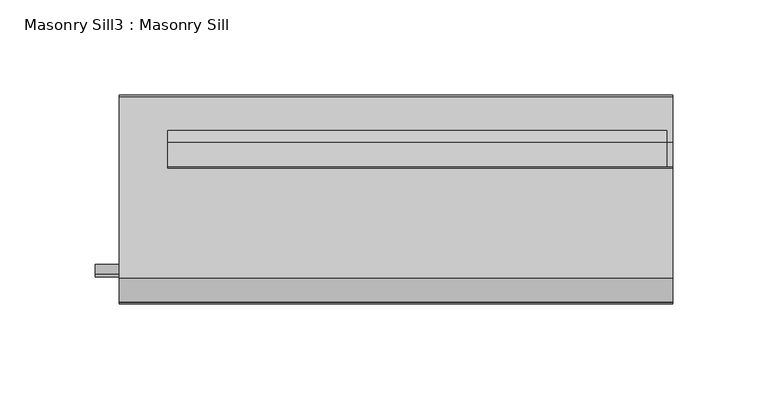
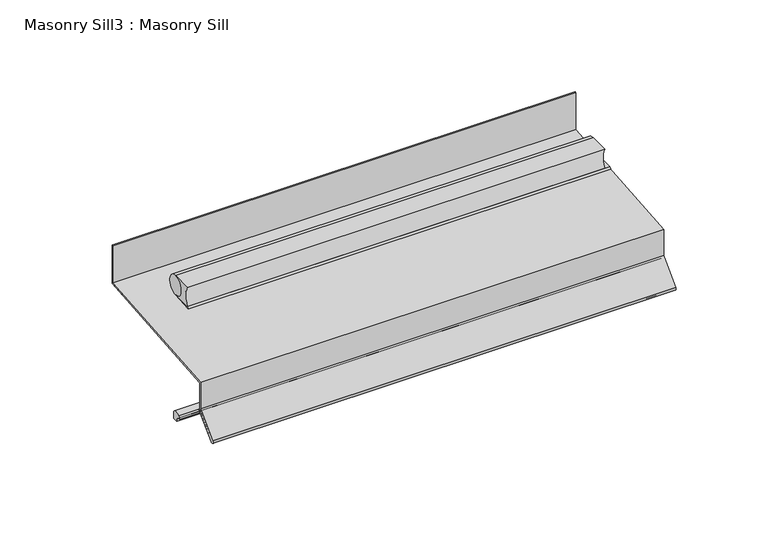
"""IFC4 building model written with IfcOpenShell, lengths in millimetres: proxy geometry, Masonry Sill3 : Masonry Sill."""

from ifc_helpers import new_model, si_unit, point, frame, frame_2d, origin, place, context, project, spatial, polyline, circle_curve, trimmed, segment, composite_curve, outline, extrude, source, transform, mapped, element, save


def masonry_sill3_masonry_sill_d59b7927(model_context):
    return source(origin(), model_context, "Body", "SweptSolid", [
        extrude(outline(composite_curve([segment(trimmed(circle_curve(frame_2d((605.834275, 465.1375)), 6.35), [point((605.834275, 471.4875))], [point((605.834275, 458.7875))], True, "CARTESIAN"), True, "CONTINUOUS"), segment(polyline([(605.834275, 458.7875), (593.134275, 458.7875)]), True, "CONTINUOUS"), segment(trimmed(circle_curve(frame_2d((582.1357524, 465.1375)), 12.7), [point((593.134275, 458.7875))], [point((593.134275, 471.4875))], True, "CARTESIAN"), True, "CONTINUOUS"), segment(polyline([(593.134275, 471.4875), (605.834275, 471.4875)]), True, "CONTINUOUS")], self_intersect=False)), frame((26590.7726773, 0.0, 0.0), z_axis=(1.0, 0.0, 0.0), x_axis=(0.0, 1.0, 0.0)), (0.0, 0.0, 1.0), 261.9375),
        extrude(outline(composite_curve([segment(trimmed(circle_curve(frame_2d((605.834275, 465.1375)), 6.35), [point((605.834275, 458.7875))], [point((605.834275, 471.4875))], False, "CARTESIAN"), True, "CONTINUOUS"), segment(trimmed(circle_curve(frame_2d((605.834275, 465.1375)), 6.35), [point((605.834275, 471.4875))], [point((605.834275, 458.7875))], False, "CARTESIAN"), True, "CONTINUOUS")], self_intersect=False)), frame((26590.7726773, 0.0, 0.0), z_axis=(1.0, 0.0, 0.0), x_axis=(0.0, 1.0, 0.0)), (0.0, 0.0, 1.0), 261.9375),
        extrude(outline(composite_curve([segment(polyline([(593.134275, 458.7875), (605.841516, 458.7875), (592.3632243, 457.6083023)]), True, "CONTINUOUS"), segment(trimmed(circle_curve(frame_2d((582.1357524, 465.1375)), 12.7), [point((592.3632243, 457.6083023))], [point((593.134275, 458.7875))], True, "CARTESIAN"), True, "CONTINUOUS")], self_intersect=False)), frame((26590.7726773, 0.0, 0.0), z_axis=(1.0, 0.0, 0.0), x_axis=(0.0, 1.0, 0.0)), (0.0, 0.0, 1.0), 265.1125),
        extrude(outline(composite_curve([segment(polyline([(630.8066297, 460.1748824), (535.5566297, 451.8415872), (535.5566297, 434.7748824), (522.0862455, 421.3044982)]), True, "CONTINUOUS"), segment(trimmed(circle_curve(frame_2d((522.3668785, 421.0238652)), 0.396875), [point((522.0862455, 421.3044982))], [point((522.6475115, 420.7432322))], True, "CARTESIAN"), True, "CONTINUOUS"), segment(polyline([(522.6475115, 420.7432322), (536.1178957, 434.2136164), (536.6791617, 433.6523504), (523.2087775, 420.1819662)]), True, "CONTINUOUS"), segment(trimmed(circle_curve(frame_2d((522.3668785, 421.0238652)), 1.190625), [point((523.2087775, 420.1819662))], [point((521.5249795, 421.8657643))], False, "CARTESIAN"), True, "CONTINUOUS"), segment(polyline([(521.5249795, 421.8657643), (534.7628797, 435.1036644), (534.7628797, 452.5689251), (630.0128797, 460.9022203), (630.0128797, 485.5748824), (630.8066297, 485.5748824), (630.8066297, 460.1748824)]), True, "CONTINUOUS")], self_intersect=False)), frame((26565.3726773, 0.0, 0.0), z_axis=(1.0, 0.0, 0.0), x_axis=(0.0, 1.0, 0.0)), (0.0, 0.0, 1.0), 290.5125),
        extrude(outline(composite_curve([segment(polyline([(541.9066297, 433.6523504), (541.9066297, 428.8061332), (538.7316297, 428.8061332)]), True, "CONTINUOUS"), segment(trimmed(circle_curve(frame_2d((535.2822871, 428.8061332)), 3.4493426), [point((538.7316297, 428.8061332))], [point((535.2822871, 432.2554758))], True, "CARTESIAN"), True, "CONTINUOUS"), segment(polyline([(535.2822871, 432.2554758), (536.6791617, 433.6523504)]), True, "CONTINUOUS"), segment(trimmed(circle_curve(frame_2d((539.2928957, 431.0386164)), 3.6963781), [point((536.6791617, 433.6523504))], [point((541.9066297, 433.6523504))], False, "CARTESIAN"), True, "CONTINUOUS")], self_intersect=False)), frame((26552.6726773, 0.0, 0.0), z_axis=(1.0, 0.0, 0.0), x_axis=(0.0, 1.0, 0.0)), (0.0, 0.0, 1.0), 303.2125),
    ])


if __name__ == "__main__":
    model = new_model("IFC4")
    model_context = context("Model", 3, world=origin())
    ifc_project = project(units=[si_unit("LENGTHUNIT", "METRE", prefix="MILLI")], contexts=[model_context])
    site = spatial("IfcSite", under=ifc_project)
    building = spatial("IfcBuilding", under=site)
    placement = place(None, origin())
    masonry_sill3_masonry_sill_shape = masonry_sill3_masonry_sill_d59b7927(model_context)
    element("IfcBuildingElementProxy", 1, Name="Masonry Sill3 : Masonry Sill", ObjectType="Masonry Sill3 : Masonry Sill", at=placement, inside=building, context=model_context, shape_type="MappedRepresentation", body=[
        mapped(masonry_sill3_masonry_sill_shape, transform((0.0, 0.0, 0.0), x_axis=(1.0, 0.0, 0.0), y_axis=(0.0, 1.0, 0.0), z_axis=(0.0, 0.0, 1.0))),
    ])
    save(model, "model.ifc")
